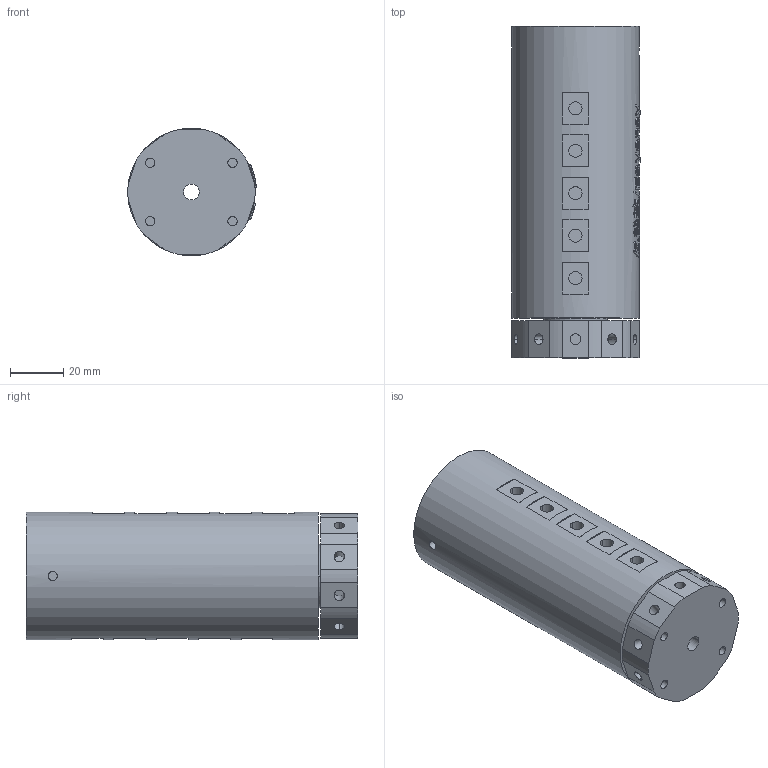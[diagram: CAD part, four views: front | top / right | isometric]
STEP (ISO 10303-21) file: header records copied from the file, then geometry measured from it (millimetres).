
FILE_DESCRIPTION(/* description */ (''),/* implementation_level */ '2;1');
FILE_NAME(/* name */ 'HQ12005.stp',/* time_stamp */ '2025-01-20T15:01:23+08:00',/* author */ (''),/* organization */ (''),/* preprocessor_version */ 'ST-DEVELOPER v16.7',/* originating_system */ 'SIEMENS PLM Software NX 12.0',/* authorisation */ '');
FILE_SCHEMA (('AUTOMOTIVE_DESIGN { 1 0 10303 214 3 1 1 1 }'));
Length unit declared in the file: millimetre
Products named in the file (1): HX056BE06534db1e
Bounding box: 48.43 x 125 x 48 mm (x, y, z)
Volume: 217333.6 mm3; surface area: 30845 mm2
Topology: 1 solids, 1 shells, 491 faces, 1215 edges, 814 vertices
Faces by surface type: plane 266, cylinder 103, extrusion 93, bspline 29
Full cylindrical faces by diameter (mm): 48 x1
Entity records: 35804 total; most frequent: CARTESIAN_POINT 25141, ORIENTED_EDGE 2374, DIRECTION 1747, EDGE_CURVE 1187, VERTEX_POINT 804, AXIS2_PLACEMENT_3D 692, B_SPLINE_CURVE_WITH_KNOTS 688, EDGE_LOOP 599
